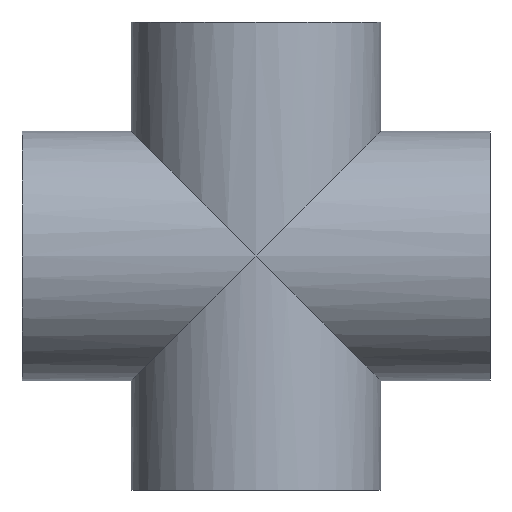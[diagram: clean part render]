
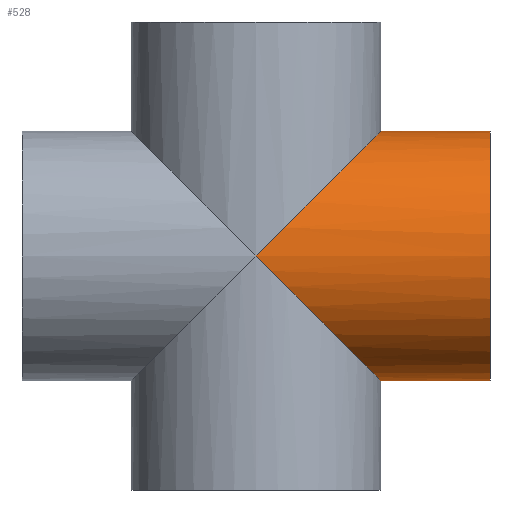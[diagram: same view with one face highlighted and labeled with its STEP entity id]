
A CAD part, front view. The second image highlights one B-rep face of the part: STEP entity #528.
In plain terms, the highlighted cylindrical face has radius 76.2 mm (diameter 152.4 mm), a partial arc.
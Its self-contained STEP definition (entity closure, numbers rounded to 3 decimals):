
#11 = VERTEX_POINT ( 'NONE', #435 ) ;
#55 = VERTEX_POINT ( 'NONE', #523 ) ;
#58 = CARTESIAN_POINT ( 'NONE',  ( 142.875, 0., 0. ) ) ;
#73 = DIRECTION ( 'NONE',  ( -1., 0., 0. ) ) ;
#85 = ORIENTED_EDGE ( 'NONE', *, *, #645, .F. ) ;
#94 = DIRECTION ( 'NONE',  ( 0., 0., -1. ) ) ;
#98 = LINE ( 'NONE', #443, #556 ) ;
#117 = CIRCLE ( 'NONE', #627, 76.2 ) ;
#176 = DIRECTION ( 'NONE',  ( 0., 0., -1. ) ) ;
#199 = EDGE_CURVE ( 'NONE', #529, #348, #117, .T. ) ;
#200 = LINE ( 'NONE', #342, #367 ) ;
#224 = CYLINDRICAL_SURFACE ( 'NONE', #402, 76.2 ) ;
#235 = FACE_OUTER_BOUND ( 'NONE', #449, .T. ) ;
#248 = ORIENTED_EDGE ( 'NONE', *, *, #400, .F. ) ;
#287 = CARTESIAN_POINT ( 'NONE',  ( 44.637, -76.2, -44.637 ) ) ;
#333 = DIRECTION ( 'NONE',  ( 1., 0., 0. ) ) ;
#336 = EDGE_CURVE ( 'NONE', #11, #529, #98, .T. ) ;
#339 = CARTESIAN_POINT ( 'NONE',  ( 0., -76.2, 0. ) ) ;
#342 = CARTESIAN_POINT ( 'NONE',  ( -142.875, 0., 76.2 ) ) ;
#348 = VERTEX_POINT ( 'NONE', #382 ) ;
#367 = VECTOR ( 'NONE', #488, 1000. ) ;
#382 = CARTESIAN_POINT ( 'NONE',  ( 142.875, 0., 76.2 ) ) ;
#387 = CARTESIAN_POINT ( 'NONE',  ( 76.2, -44.637, -76.2 ) ) ;
#400 = EDGE_CURVE ( 'NONE', #55, #608, #589, .T. ) ;
#402 = AXIS2_PLACEMENT_3D ( 'NONE', #614, #333, #176 ) ;
#415 = DIRECTION ( 'NONE',  ( 1., 0., 0. ) ) ;
#435 = CARTESIAN_POINT ( 'NONE',  ( 76.2, 0., -76.2 ) ) ;
#443 = CARTESIAN_POINT ( 'NONE',  ( -142.875, 0., -76.2 ) ) ;
#448 = CARTESIAN_POINT ( 'NONE',  ( 44.637, -76.2, 44.637 ) ) ;
#449 = EDGE_LOOP ( 'NONE', ( #85, #248, #564, #592, #550 ) ) ;
#472 =( BOUNDED_CURVE ( )  B_SPLINE_CURVE ( 3, ( #629, #387, #287, #493 ),
 .UNSPECIFIED., .F., .F. ) 
 B_SPLINE_CURVE_WITH_KNOTS ( ( 4, 4 ),
 ( 3.142, 4.712 ),
 .UNSPECIFIED. ) 
 CURVE ( )  GEOMETRIC_REPRESENTATION_ITEM ( )  RATIONAL_B_SPLINE_CURVE ( ( 1., 0.805, 0.805, 1. ) ) 
 REPRESENTATION_ITEM ( '' )  );
#488 = DIRECTION ( 'NONE',  ( 1., 0., 0. ) ) ;
#493 = CARTESIAN_POINT ( 'NONE',  ( 0., -76.2, 0. ) ) ;
#502 = CARTESIAN_POINT ( 'NONE',  ( 76.2, 0., 76.2 ) ) ;
#523 = CARTESIAN_POINT ( 'NONE',  ( 0., -76.2, 0. ) ) ;
#528 = ADVANCED_FACE ( 'NONE', ( #235 ), #224, .T. ) ;
#529 = VERTEX_POINT ( 'NONE', #617 ) ;
#540 = CARTESIAN_POINT ( 'NONE',  ( 76.2, 0., 76.2 ) ) ;
#545 = CARTESIAN_POINT ( 'NONE',  ( 76.2, -44.637, 76.2 ) ) ;
#550 = ORIENTED_EDGE ( 'NONE', *, *, #199, .T. ) ;
#556 = VECTOR ( 'NONE', #415, 1000. ) ;
#564 = ORIENTED_EDGE ( 'NONE', *, *, #642, .F. ) ;
#589 =( BOUNDED_CURVE ( )  B_SPLINE_CURVE ( 3, ( #339, #448, #545, #502 ),
 .UNSPECIFIED., .F., .F. ) 
 B_SPLINE_CURVE_WITH_KNOTS ( ( 4, 4 ),
 ( 4.712, 6.283 ),
 .UNSPECIFIED. ) 
 CURVE ( )  GEOMETRIC_REPRESENTATION_ITEM ( )  RATIONAL_B_SPLINE_CURVE ( ( 1., 0.805, 0.805, 1. ) ) 
 REPRESENTATION_ITEM ( '' )  );
#592 = ORIENTED_EDGE ( 'NONE', *, *, #336, .T. ) ;
#608 = VERTEX_POINT ( 'NONE', #540 ) ;
#614 = CARTESIAN_POINT ( 'NONE',  ( -142.875, 0., 0. ) ) ;
#617 = CARTESIAN_POINT ( 'NONE',  ( 142.875, 0., -76.2 ) ) ;
#627 = AXIS2_PLACEMENT_3D ( 'NONE', #58, #73, #94 ) ;
#629 = CARTESIAN_POINT ( 'NONE',  ( 76.2, 0., -76.2 ) ) ;
#642 = EDGE_CURVE ( 'NONE', #11, #55, #472, .T. ) ;
#645 = EDGE_CURVE ( 'NONE', #608, #348, #200, .T. ) ;
